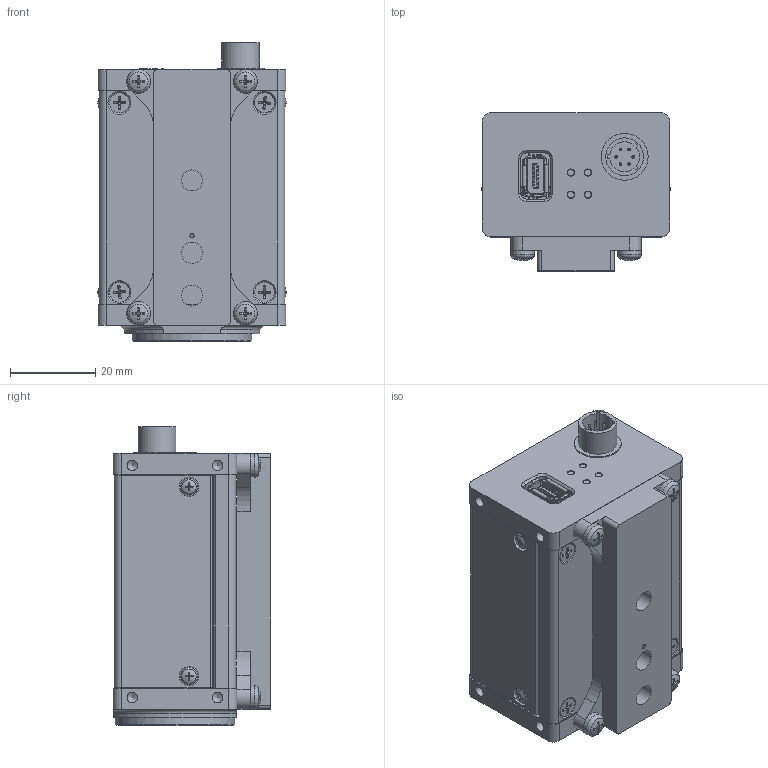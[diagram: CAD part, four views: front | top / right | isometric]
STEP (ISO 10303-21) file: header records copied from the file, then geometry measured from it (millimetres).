
FILE_DESCRIPTION(/* description */ (''),/* implementation_level */ '2;1');
FILE_NAME(/* name */ 'D:\HiDrive\1_Konstruktion\1_KUNDEN\TIS\205-16_12 MP-Camera (Sensor 23x20)\205-16-2_Cam.44x29-Sens.23x20-12MP-GigE3L\IPT und STEP Ableitungen für Kunden\205-16-20-a_Cam.44x29_GigE3L_CS-FP_13,3_ER-6,7.stp',/* time_stamp */ '2018-07-20T14:15:21+02:00',/* author */ ('khw'),/* organization */ (''),/* preprocessor_version */ 'ST-DEVELOPER v16.5',/* originating_system */ 'Autodesk Inventor 2017',/* authorisation */ '');
FILE_SCHEMA (('AUTOMOTIVE_DESIGN { 1 0 10303 214 3 1 1 }'));
Products named in the file (4): 205-16-20_Cam.44x29_GigE3L_CS-FP_13,3_ER-6,7; 205-16-20_Cam.44x29_GigE3L_CS-FP_13,3_ER-6,7_1; 205-16-1-00-04_TripodAdapter; ISO 7045 - M3 x 6 - 4.8 - H
Assembly tree (6 placements, depth 2):
  205-16-20_Cam.44x29_GigE3L_CS-FP_13,3_ER-6,7
    205-16-20_Cam.44x29_GigE3L_CS-FP_13,3_ER-6,7_1
    205-16-1-00-04_TripodAdapter
    ISO 7045 - M3 x 6 - 4.8 - H  x4
Bounding box: 44.07 x 37 x 70.05 mm (x, y, z)
Volume: 41138.5 mm3; surface area: 31589.2 mm2
Topology: 7 solids, 18 shells, 1798 faces, 4821 edges, 3090 vertices
Faces by surface type: plane 891, cylinder 523, cone 252, torus 95, bspline 22, sphere 15
Full cylindrical faces by diameter (mm): 0.6 x6, 0.8 x6, 0.838 x4, 1 x1, 1.221 x4, 1.567 x8, 1.6 x4, 1.626 x4, 1.7 x4, 1.783 x4, 1.8 x4, 2 x4, 2.013 x4, 2.224 x4, 2.3 x4, 2.459 x16, 2.7 x4, 2.729 x4, 3 x4, 3.3 x4, 4 x4, 4.5 x4, 4.7 x4, 4.917 x2, 4.978 x1, 8 x1, 8.85 x1, 11 x1, 20.2 x1, 21.9 x1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
Entity records: 55322 total; most frequent: CARTESIAN_POINT 11531, DIRECTION 8902, ORIENTED_EDGE 8504, EDGE_CURVE 4252, AXIS2_PLACEMENT_3D 3168, VERTEX_POINT 2836, LINE 2566, VECTOR 2566
